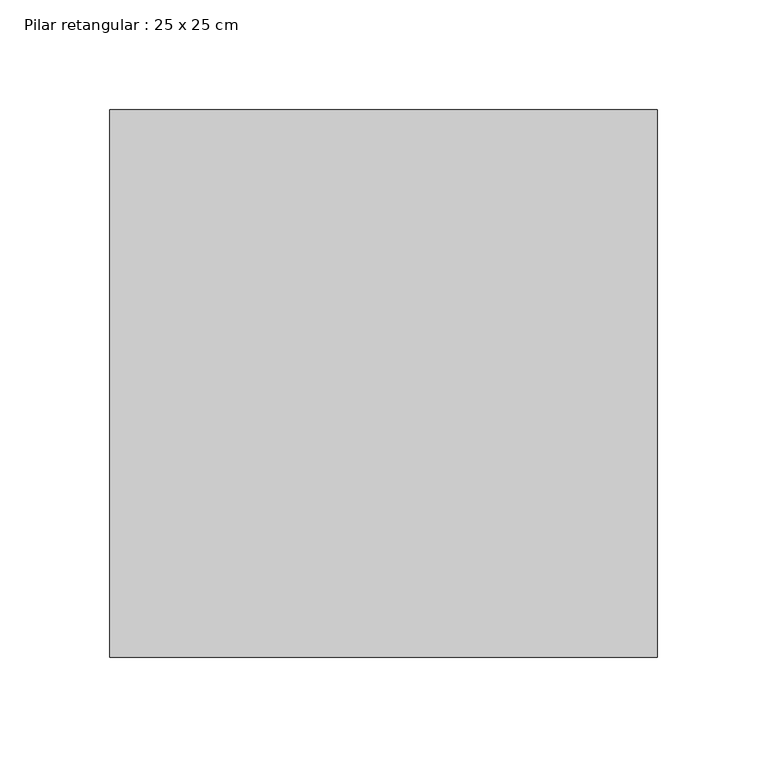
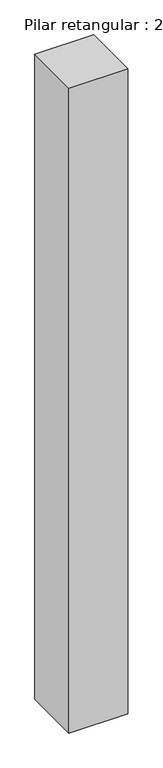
"""IFC4 building model written with IfcOpenShell, lengths in millimetres: column geometry, Pilar retangular : 25 x 25 cm."""

from ifc_helpers import new_model, si_unit, origin, origin_with_axes, place, context, project, spatial, polyline, outline, extrude, source, transform, mapped, element, save


def pilar_retangular_25_x_25_cm_c467fb03(model_context):
    return source(origin(), model_context, "Body", "SweptSolid", [
        extrude(outline(polyline([(125.0, 125.0), (125.0, -125.0), (-125.0, -125.0), (-125.0, 125.0), (125.0, 125.0)])), origin_with_axes(), (0.0, 0.0, 1.0), 2900.0),
    ])


if __name__ == "__main__":
    model = new_model("IFC4")
    model_context = context("Model", 3, world=origin())
    ifc_project = project(units=[si_unit("LENGTHUNIT", "METRE", prefix="MILLI")], contexts=[model_context])
    site = spatial("IfcSite", under=ifc_project)
    building = spatial("IfcBuilding", under=site)
    placement = place(None, origin())
    pilar_retangular_25_x_25_cm_shape = pilar_retangular_25_x_25_cm_c467fb03(model_context)
    element("IfcColumn", 1, ObjectType="Pilar retangular : 25 x 25 cm", at=placement, inside=building, context=model_context, shape_type="MappedRepresentation", body=[
        mapped(pilar_retangular_25_x_25_cm_shape, transform((0.0, 0.0, 0.0), x_axis=(1.0, 0.0, 0.0), y_axis=(0.0, 1.0, 0.0), z_axis=(0.0, 0.0, 1.0))),
    ])
    save(model, "model.ifc")
